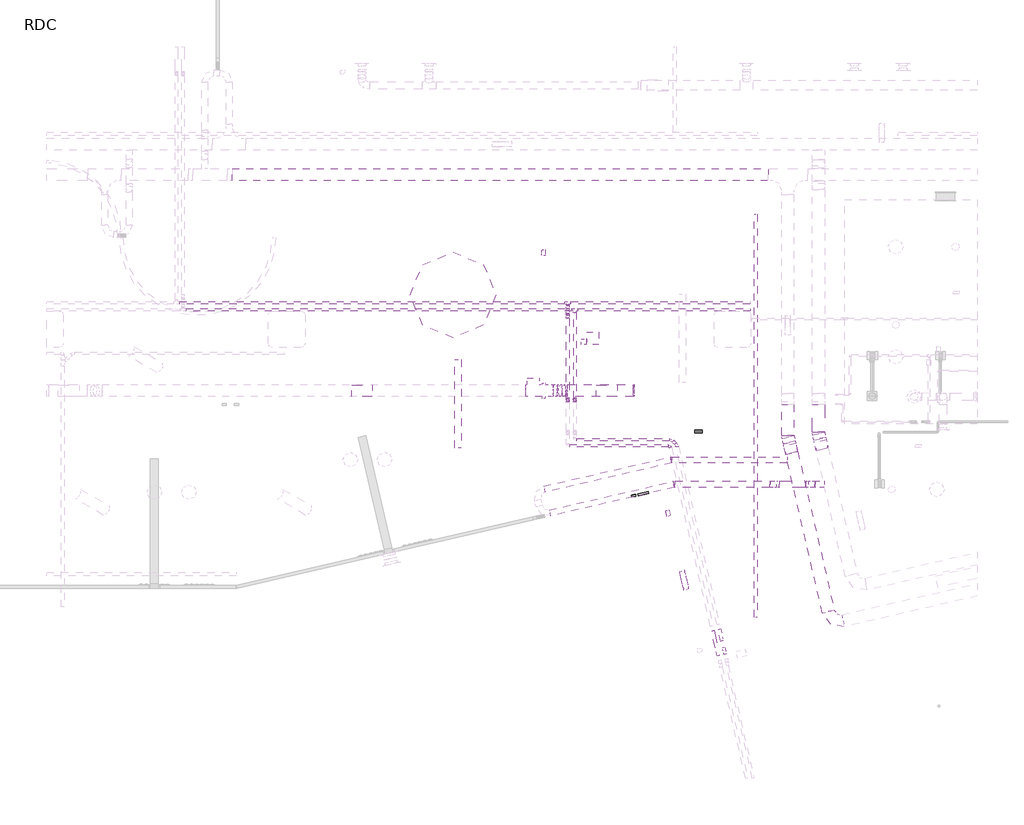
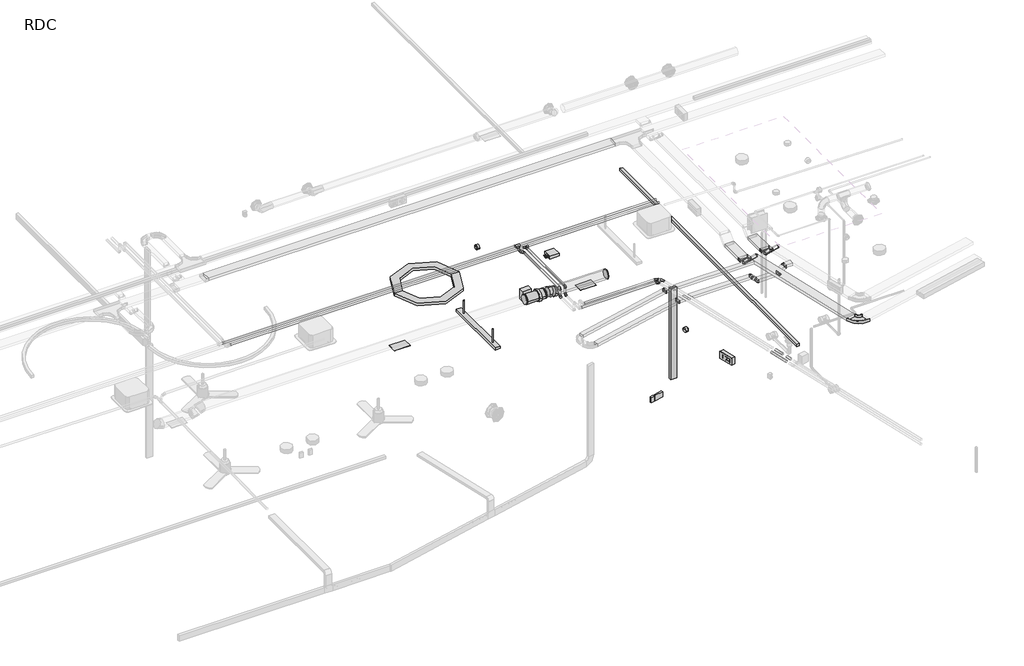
# One storey, part 6 of 15: 17 pipe segments, 16 cable carrier segments, 13 cable carrier fittings, 12 pipe fittings, 5 light fixtures, 4 duct segments, 3 duct fittings, 3 proxies, 5 other elements.
"""IFC4 building model written with IfcOpenShell, lengths in millimetres."""

from ifc_helpers import new_model, si_unit, point, frame, frame_2d, origin, place, context, project, spatial, polyline, circle_curve, trimmed, segment, composite_curve, outline, extrude, transform, mapped, element, save
from components import air_terminal_300x150_ce1732d7, alarm_ff25f4bb, mechanical_equipment_c8f78f9b, mechanical_equipment_4a9d14a3, electrical_fixtures_b5335298, standaard_2330e57b, standaard_15b901d2, standaard_4c7fa205, standaard_e0b66c9b, standaard_41c507b0, standaard_8c2b1447, standaard_3ccb1d7a, standaard_35becd63, ai_acc_gaine_ccf_circulaire_d200_bacb5152, coude_circulaire_1_d_686486ae, standard_0dd78975, light_fixture_1fd30b04, light_fixture_0e94ac83, a9_4b38396c, ai_luminaire_concept_s_angle_915ad789, plafond_a018df44, standard_b03442fd, standard_a87af493, standard_ff5d54bc, standard_8dba9d94, standard_43b117e1

model = new_model("IFC4")

# Units and contexts
model_context = context("Model", 3, world=origin())
ifc_project = project(units=[si_unit("LENGTHUNIT", "METRE", prefix="MILLI")], contexts=[model_context])

# Site, building, storey
site = spatial("IfcSite", under=ifc_project)
building = spatial("IfcBuilding", under=site)
storey = spatial("IfcBuildingStorey", under=building, Name="RDC", Elevation=0.0)

# Air terminals
placement = place(None, origin())
air_terminal_300x150_shape = air_terminal_300x150_ce1732d7(model_context)
element("IfcAirTerminal", 1, ObjectType="AI_Bouche aération_Grille de soufflage rectangulaire sur gaine : 300x150", at=placement, inside=storey, context=model_context, shape_type="MappedRepresentation", body=[
    mapped(air_terminal_300x150_shape, transform((28288.6648303, 4361.9215834, 2670.0), x_axis=(0.0, -1.0, 0.0), y_axis=(1.0, 0.0, 0.0), z_axis=(0.0, 0.0, 1.0))),
])
element("IfcAirTerminal", 2, ObjectType="AI_Bouche aération_Grille de soufflage rectangulaire sur gaine : 300x150", at=placement, inside=storey, context=model_context, shape_type="MappedRepresentation", body=[
    mapped(air_terminal_300x150_shape, transform((24277.9945729, 4361.9215834, 2700.0), x_axis=(0.0, 1.0, 0.0), y_axis=(-1.0, 0.0, 0.0), z_axis=(0.0, 0.0, 1.0))),
])

# Alarms
alarm_shape = alarm_ff25f4bb(model_context)
element("IfcAlarm", 3, ObjectType="AI_Incendie_Alarme incendie : Diffuseur sonore", at=placement, inside=storey, context=model_context, shape_type="MappedRepresentation", body=[
    mapped(alarm_shape, transform((27282.9442754, 6622.8964541, 2529.5993522), x_axis=(0.0, 1.0, 0.0), y_axis=(-1.0, 0.0, 0.0), z_axis=(0.0, 0.0, 1.0))),
])
element("IfcAlarm", 4, ObjectType="AI_Incendie_Alarme incendie : Diffuseur sonore", at=placement, inside=storey, context=model_context, shape_type="MappedRepresentation", body=[
    mapped(alarm_shape, transform((29260.8019562, 2346.2148376, 2529.5993522), x_axis=(0.2249510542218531, -0.974370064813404, 0.0), y_axis=(0.974370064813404, 0.2249510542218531, 0.0), z_axis=(0.0, 0.0, 1.0))),
])

# Proxies
mechanical_equipment_shape = mechanical_equipment_c8f78f9b(model_context)
element("IfcBuildingElementProxy", 5, Name="AI_Eqpmt genie clim_Commande centralisée Clim : Commande centralisée Clim", ObjectType="AI_Eqpmt genie clim_Commande centralisée Clim : Commande centralisée Clim", at=placement, inside=storey, context=model_context, shape_type="MappedRepresentation", body=[
    mapped(mechanical_equipment_shape, transform((28886.3228768, 2675.4126731, 900.0), x_axis=(-0.9743700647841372, -0.2249510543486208, 0.0), y_axis=(0.2249510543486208, -0.9743700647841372, 0.0), z_axis=(0.0, 0.0, 1.0))),
])
mechanical_equipment_2_shape = mechanical_equipment_4a9d14a3(model_context)
element("IfcBuildingElementProxy", 6, Name="AI_Eqpmt genie clim_Commande murale Clim : Commande murale Clim", ObjectType="AI_Eqpmt genie clim_Commande murale Clim : Commande murale Clim", at=placement, inside=storey, context=model_context, shape_type="MappedRepresentation", body=[
    mapped(mechanical_equipment_2_shape, transform((28730.9948082, 2624.1578013, 960.0), x_axis=(0.9743700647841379, 0.22495105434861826, 0.0), y_axis=(-0.22495105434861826, 0.9743700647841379, 0.0), z_axis=(0.0, 0.0, 1.0))),
])
electrical_fixtures_shape = electrical_fixtures_b5335298(model_context)
element("IfcBuildingElementProxy", 7, Name="AI_Instal elec_Prise RJ45 : RJ45 Plafonnière", ObjectType="AI_Instal elec_Prise RJ45 : RJ45 Plafonnière", at=placement, inside=storey, context=model_context, shape_type="MappedRepresentation", body=[
    mapped(electrical_fixtures_shape, transform((27914.342576, 5119.3027163, 2980.0), x_axis=(-1.0, 0.0, 0.0), y_axis=(0.0, -1.0, 0.0), z_axis=(0.0, 0.0, 1.0))),
])

# Cable carrier fittings
standaard_shape = standaard_2330e57b(model_context)
element("IfcCableCarrierFitting", 8, ObjectType="AI_Raccord cdc_Coude desencdant : standaard", at=placement, inside=storey, context=model_context, shape_type="MappedRepresentation", body=[
    mapped(standaard_shape, transform((30971.6641623, 2828.0036391, 2856.9968882), x_axis=(1.0, 0.0, 0.0), y_axis=(0.0, 0.0, -1.0), z_axis=(0.0, 1.0, 0.0))),
])
element("IfcCableCarrierFitting", 9, ObjectType="AI_Raccord cdc_Coude desencdant : standaard", at=placement, inside=storey, context=model_context, shape_type="MappedRepresentation", body=[
    mapped(standaard_shape, transform((31686.2226035, 2828.0036391, 2856.9968882), x_axis=(0.7071067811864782, 0.0, 0.7071067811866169), y_axis=(0.7071067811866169, 0.0, -0.7071067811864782), z_axis=(0.0, 1.0, 0.0))),
])
standaard_2_shape = standaard_15b901d2(model_context)
element("IfcCableCarrierFitting", 10, ObjectType="AI_Raccord cdc_Coude montant : standaard", at=placement, inside=storey, context=model_context, shape_type="MappedRepresentation", body=[
    mapped(standaard_2_shape, transform((31098.9433829, 2828.0036391, 2729.7176676), x_axis=(0.70710678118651, 0.0, -0.707106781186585), y_axis=(0.707106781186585, 0.0, 0.70710678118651), z_axis=(0.0, -1.0, 0.0))),
])
element("IfcCableCarrierFitting", 11, ObjectType="AI_Raccord cdc_Coude montant : standaard", at=placement, inside=storey, context=model_context, shape_type="MappedRepresentation", body=[
    mapped(standaard_2_shape, transform((31558.9433829, 2828.0036391, 2729.7176676), x_axis=(1.0, 0.0, 0.0), y_axis=(0.0, 0.0, 1.0), z_axis=(0.0, -1.0, 0.0))),
])
standaard_3_shape = standaard_4c7fa205(model_context)
element("IfcCableCarrierFitting", 12, ObjectType="AI_Raccord cdc_Coude horizontal rayon court : standaard", at=placement, inside=storey, context=model_context, shape_type="MappedRepresentation", body=[
    mapped(standaard_3_shape, transform((29391.6641623, 2828.0036391, 2856.9968882), x_axis=(-1.0, 0.0, 0.0), y_axis=(0.0, -1.0, 0.0), z_axis=(0.0, 0.0, 1.0))),
])
standaard_4_shape = standaard_e0b66c9b(model_context)
element("IfcCableCarrierFitting", 13, ObjectType="AI_Raccord cdc_Coude horizontal rayon court : standaard", at=placement, inside=storey, context=model_context, shape_type="MappedRepresentation", body=[
    mapped(standaard_4_shape, transform((29346.1168345, 3228.0035961, 2856.9968882), x_axis=(-1.0, 0.0, 0.0), y_axis=(0.0, -1.0, 0.0), z_axis=(0.0, 0.0, 1.0))),
])
standaard_5_shape = standaard_41c507b0(model_context)
element("IfcCableCarrierFitting", 14, ObjectType="AI_Raccord cdc_Coude horizontal rayon court : standaard", at=placement, inside=storey, context=model_context, shape_type="MappedRepresentation", body=[
    mapped(standaard_5_shape, transform((31253.8980101, 3614.307977, 2703.711413), x_axis=(0.0, -1.0, 0.0), y_axis=(1.0, 0.0, 0.0), z_axis=(0.0, 0.0, 1.0))),
])
element("IfcCableCarrierFitting", 15, ObjectType="AI_Raccord cdc_Coude horizontal rayon court : standaard", at=placement, inside=storey, context=model_context, shape_type="MappedRepresentation", body=[
    mapped(standaard_5_shape, transform((31753.8980101, 3671.2745968, 2703.711413), x_axis=(0.0, -1.0, 0.0), y_axis=(1.0, 0.0, 0.0), z_axis=(0.0, 0.0, 1.0))),
])
standaard_6_shape = standaard_8c2b1447(model_context)
element("IfcCableCarrierFitting", 16, ObjectType="AI_Raccord cdc_Coude horizontal rayon court : standaard", at=placement, inside=storey, context=model_context, shape_type="MappedRepresentation", body=[
    mapped(standaard_6_shape, transform((31962.2186509, 546.1687455, 2856.9968882), x_axis=(0.22494649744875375, -0.9743711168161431, 0.0), y_axis=(0.9743711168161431, 0.22494649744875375, 0.0), z_axis=(0.0, 0.0, 1.0))),
])
standaard_7_shape = standaard_3ccb1d7a(model_context)
element("IfcCableCarrierFitting", 17, ObjectType="AI_Raccord cdc_Coude desencdant : standaard", at=placement, inside=storey, context=model_context, shape_type="MappedRepresentation", body=[
    mapped(standaard_7_shape, transform((31813.6402597, 3412.4969625, 2856.9968882), x_axis=(0.15906119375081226, -0.6889844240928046, 0.7071067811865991), y_axis=(0.15906119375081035, -0.6889844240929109, -0.707106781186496), z_axis=(0.9743711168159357, 0.22494649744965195, 0.0))),
])
element("IfcCableCarrierFitting", 18, ObjectType="AI_Raccord cdc_Coude desencdant : standaard", at=placement, inside=storey, context=model_context, shape_type="MappedRepresentation", body=[
    mapped(standaard_7_shape, transform((31314.4610608, 3351.9749867, 2856.9968882), x_axis=(0.15906119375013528, -0.6889844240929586, 0.7071067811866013), y_axis=(0.15906119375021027, -0.6889844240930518, -0.7071067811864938), z_axis=(0.9743711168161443, 0.22494649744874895, 0.0))),
])
standaard_8_shape = standaard_35becd63(model_context)
element("IfcCableCarrierFitting", 19, ObjectType="AI_Raccord cdc_Coude montant : standaard", at=placement, inside=storey, context=model_context, shape_type="MappedRepresentation", body=[
    mapped(standaard_8_shape, transform((31779.1592289, 3561.8539021, 2703.711413), x_axis=(0.22494649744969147, -0.9743711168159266, 0.0), y_axis=(0.0, 0.0, 1.0000000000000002), z_axis=(-0.9743711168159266, -0.22494649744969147, 0.0))),
])
element("IfcCableCarrierFitting", 20, ObjectType="AI_Raccord cdc_Coude montant : standaard", at=placement, inside=storey, context=model_context, shape_type="MappedRepresentation", body=[
    mapped(standaard_8_shape, transform((31279.98003, 3501.3319263, 2703.711413), x_axis=(0.2249464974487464, -0.9743711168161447, 0.0), y_axis=(0.0, 0.0, 1.0), z_axis=(-0.9743711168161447, -0.2249464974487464, 0.0))),
])

# Cable carrier segments
element("IfcCableCarrierSegment", 21, ObjectType="Par défaut", at=placement, inside=storey, context=model_context, shape_type="SweptSolid", body=[
    extrude(outline(polyline([(31353.8980101, 3628.9799656), (31153.8980101, 3628.9799659), (31153.8980108, 4136.4575693), (31353.8980108, 4136.457569), (31353.8980101, 3628.9799656)])), frame((0.0, 0.0, 2673.711413), z_axis=(0.0, 0.0, 1.0), x_axis=(1.0, 0.0, 0.0)), (0.0, 0.0, 1.0), 60.0),
])
element("IfcCableCarrierSegment", 22, ObjectType="Par défaut", at=placement, inside=storey, context=model_context, shape_type="SweptSolid", body=[
    extrude(outline(polyline([(22148.8980101, 7802.2308907), (22148.8980101, 8002.2308907), (30928.8980101, 8002.2308907), (30928.8980101, 7802.2308907), (22148.8980101, 7802.2308907)])), frame((0.0, 0.0, 2826.9968882), z_axis=(0.0, 0.0, 1.0), x_axis=(1.0, 0.0, 0.0)), (0.0, 0.0, 1.0), 60.0),
])
element("IfcCableCarrierSegment", 23, ObjectType="Par défaut", at=placement, inside=storey, context=model_context, shape_type="SweptSolid", body=[
    extrude(outline(polyline([(32014.4415166, 764.5119897), (31819.5672932, 719.5226902), (31220.1373482, 3315.9944361), (31415.0115716, 3360.9837356), (32014.4415166, 764.5119897)])), frame((0.0, 0.0, 2826.9968882), z_axis=(0.0, 0.0, 1.0), x_axis=(1.0, 0.0, 0.0)), (0.0, 0.0, 1.0), 60.0),
])
element("IfcCableCarrierSegment", 24, ObjectType="Par défaut", at=placement, inside=storey, context=model_context, shape_type="SweptSolid", body=[
    extrude(outline(polyline([(31159.7613109, 3577.5173652), (31354.6355343, 3622.5066647), (31374.3037426, 3537.3124769), (31179.4295193, 3492.3231774), (31159.7613109, 3577.5173652)])), frame((0.0, 0.0, 2673.711413), z_axis=(0.0, 0.0, 1.0), x_axis=(1.0, 0.0, 0.0)), (0.0, 0.0, 1.0), 60.0),
])
element("IfcCableCarrierSegment", 25, ObjectType="Par défaut", at=placement, inside=storey, context=model_context, shape_type="SweptSolid", body=[
    extrude(outline(polyline([(31853.8980101, 3685.9465855), (31653.8980101, 3685.9465855), (31653.8980101, 4136.4577523), (31853.8980101, 4136.4577523), (31853.8980101, 3685.9465855)])), frame((0.0, 0.0, 2673.711413), z_axis=(0.0, 0.0, 1.0), x_axis=(1.0, 0.0, 0.0)), (0.0, 0.0, 1.0), 60.0),
])
element("IfcCableCarrierSegment", 26, ObjectType="Par défaut", at=placement, inside=storey, context=model_context, shape_type="SweptSolid", body=[
    extrude(outline(polyline([(31659.7613109, 3634.483985), (31854.6355343, 3679.4732845), (31873.4829415, 3597.8344526), (31678.6087182, 3552.8451532), (31659.7613109, 3634.483985)])), frame((0.0, 0.0, 2673.711413), z_axis=(0.0, 0.0, 1.0), x_axis=(1.0, 0.0, 0.0)), (0.0, 0.0, 1.0), 60.0),
])
element("IfcCableCarrierSegment", 27, ObjectType="Par défaut", at=placement, inside=storey, context=model_context, shape_type="SweptSolid", body=[
    extrude(outline(polyline([(0.0, -199.9999999), (0.0, 0.0), (189.097157, 1e-07), (189.097157, -200.0), (0.0, -199.9999999)])), frame((31883.569682, 3554.1430472, 2692.2850062), z_axis=(-0.15906119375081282, 0.6889844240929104, 0.707106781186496), x_axis=(0.15906119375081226, -0.6889844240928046, 0.7071067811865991)), (0.0, 0.0, 1.0), 60.0),
])
element("IfcCableCarrierSegment", 28, ObjectType="Par défaut", at=placement, inside=storey, context=model_context, shape_type="SweptSolid", body=[
    extrude(outline(polyline([(-1e-07, -199.9999999), (0.0, 0.0), (189.097157, 1e-07), (189.097157, -200.0), (-1e-07, -199.9999999)])), frame((31384.3904831, 3493.6210714, 2692.2850062), z_axis=(-0.15906119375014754, 0.6889844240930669, 0.7071067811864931), x_axis=(0.15906119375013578, -0.6889844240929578, 0.7071067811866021)), (0.0, 0.0, 1.0), 60.0),
])
element("IfcCableCarrierSegment", 29, ObjectType="Par défaut", at=placement, inside=storey, context=model_context, shape_type="SweptSolid", body=[
    extrude(outline(polyline([(29355.0923395, 3178.0035961), (29355.0923395, 3278.0035961), (31241.1168345, 3278.0035961), (31241.1168345, 3178.0035961), (29355.0923395, 3178.0035961)])), frame((0.0, 0.0, 2826.9968882), z_axis=(0.0, 0.0, 1.0), x_axis=(1.0, 0.0, 0.0)), (0.0, 0.0, 1.0), 60.0),
])
element("IfcCableCarrierSegment", 30, ObjectType="Par défaut", at=placement, inside=storey, context=model_context, shape_type="SweptSolid", body=[
    extrude(outline(polyline([(29400.6397711, 2778.0036391), (29400.6397711, 2878.0036391), (30957.8235419, 2878.0036391), (30957.8235419, 2778.0036391), (29400.6397711, 2778.0036391)])), frame((0.0, 0.0, 2826.9968882), z_axis=(0.0, 0.0, 1.0), x_axis=(1.0, 0.0, 0.0)), (0.0, 0.0, 1.0), 60.0),
])
element("IfcCableCarrierSegment", 31, ObjectType="Par défaut", at=placement, inside=storey, context=model_context, shape_type="SweptSolid", body=[
    extrude(outline(polyline([(27370.3546204, 2310.025335), (27347.8591954, 2407.4622677), (29371.6708918, 2874.7030041), (29394.1663168, 2777.2660713), (27370.3546204, 2310.025335)])), frame((0.0, 0.0, 2826.9968882), z_axis=(0.0, 0.0, 1.0), x_axis=(1.0, 0.0, 0.0)), (0.0, 0.0, 1.0), 60.0),
])
element("IfcCableCarrierSegment", 32, ObjectType="Par défaut", at=placement, inside=storey, context=model_context, shape_type="SweptSolid", body=[
    extrude(outline(polyline([(27280.3722332, 2699.7729072), (27257.8770937, 2797.2099058), (29326.1238022, 3274.7030431), (29348.6189416, 3177.2660444), (27280.3722332, 2699.7729072)])), frame((0.0, 0.0, 2826.9968882), z_axis=(0.0, 0.0, 1.0), x_axis=(1.0, 0.0, 0.0)), (0.0, 0.0, 1.0), 60.0),
])
element("IfcCableCarrierSegment", 33, ObjectType="Par défaut", at=placement, inside=storey, context=model_context, shape_type="SweptSolid", body=[
    extrude(outline(polyline([(0.0, -100.0), (0.0, 0.0), (152.3187591, 0.0), (152.3187591, -100.0), (0.0, -100.0)])), frame((30960.2377554, 2878.0036391, 2825.9968882), z_axis=(0.707106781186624, 0.0, 0.7071067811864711), x_axis=(0.7071067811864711, 0.0, -0.707106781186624)), (0.0, 0.0, 1.0), 60.0),
])
element("IfcCableCarrierSegment", 34, ObjectType="Par défaut", at=placement, inside=storey, context=model_context, shape_type="SweptSolid", body=[
    extrude(outline(polyline([(31112.7840033, 2778.0036391), (31112.7840033, 2878.0036391), (31545.1027625, 2878.0036391), (31545.1027625, 2778.0036391), (31112.7840033, 2778.0036391)])), frame((0.0, 0.0, 2699.7176676), z_axis=(0.0, 0.0, 1.0), x_axis=(1.0, 0.0, 0.0)), (0.0, 0.0, 1.0), 60.0),
])
element("IfcCableCarrierSegment", 35, ObjectType="Par défaut", at=placement, inside=storey, context=model_context, shape_type="SweptSolid", body=[
    extrude(outline(polyline([(29.9999999, 8.309519), (-30.0, 8.309519), (-30.0, 108.309519), (29.9999999, 108.309519), (29.9999999, 8.309519)])), frame((31568.7301795, 2769.6941201, 2739.5044642), z_axis=(0.7071067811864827, 0.0, 0.7071067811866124), x_axis=(0.7071067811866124, 0.0, -0.7071067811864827)), (0.0, 0.0, 1.0), 152.3187591),
])
element("IfcCableCarrierSegment", 36, ObjectType="Par défaut", at=placement, inside=storey, context=model_context, shape_type="SweptSolid", body=[
    extrude(outline(polyline([(31700.0632239, 2778.0036391), (31700.0632239, 2878.0036391), (31846.2226035, 2878.0036391), (31846.2226035, 2778.0036391), (31700.0632239, 2778.0036391)])), frame((0.0, 0.0, 2826.9968882), z_axis=(0.0, 0.0, 1.0), x_axis=(1.0, 0.0, 0.0)), (0.0, 0.0, 1.0), 60.0),
])

# Damper
ai_acc_gaine_ccf_circulaire_d200_shape = ai_acc_gaine_ccf_circulaire_d200_bacb5152(model_context)
element("IfcDamper", 37, ObjectType="AI_Acc gaine_CCF Circulaire : D200", at=placement, inside=storey, context=model_context, shape_type="MappedRepresentation", body=[
    mapped(ai_acc_gaine_ccf_circulaire_d200_shape, transform((27082.9443588, 4361.9215834, 2800.0), x_axis=(-1.0, 0.0, 0.0), y_axis=(0.0, 1.0, 0.0), z_axis=(0.0, 0.0, -1.0))),
])

# Duct fittings
coude_circulaire_1_d_shape = coude_circulaire_1_d_686486ae(model_context)
element("IfcDuctFitting", 38, ObjectType="Coude circulaire : 1 D", at=placement, inside=storey, context=model_context, shape_type="MappedRepresentation", body=[
    mapped(coude_circulaire_1_d_shape, transform((27498.3584299, 4361.9215834, 2800.0), x_axis=(1.0, 0.0, 0.0), y_axis=(0.0, 0.0, -1.0), z_axis=(0.0, 1.0, 0.0))),
])
element("IfcDuctFitting", 39, ObjectType="Coude circulaire : 1 D", at=placement, inside=storey, context=model_context, shape_type="MappedRepresentation", body=[
    mapped(coude_circulaire_1_d_shape, transform((27610.3199541, 4361.9215834, 2770.0), x_axis=(-1.0, 0.0, 0.0), y_axis=(0.0, 0.0, 1.0), z_axis=(0.0, 1.0, 0.0))),
])
standard_shape = standard_0dd78975(model_context)
element("IfcDuctFitting", 40, ObjectType="Extrémité arrondie : Standard", at=placement, inside=storey, context=model_context, shape_type="MappedRepresentation", body=[
    mapped(standard_shape, transform((28722.9444462, 4361.9215834, 2770.0), x_axis=(1.0, 0.0, 0.0), y_axis=(0.0, 1.0, 0.0), z_axis=(0.0, 0.0, 1.0))),
])

# Duct segments
element("IfcDuctSegment", 41, ObjectType="Goulotte", at=placement, inside=storey, context=model_context, shape_type="SweptSolid", body=[
    extrude(outline(polyline([(29725.0846984, 3669.3027162), (29725.0846984, 3719.3027162), (29855.0846984, 3719.3027162), (29855.0846984, 3669.3027162), (29725.0846984, 3669.3027162)])), frame((0.0, 0.0, 430.0), z_axis=(0.0, 0.0, 1.0), x_axis=(1.0, 0.0, 0.0)), (0.0, 0.0, 1.0), 2070.0),
])
element("IfcDuctSegment", 42, ObjectType="Circulaire - Té", at=placement, inside=storey, context=model_context, shape_type="SweptSolid", body=[
    extrude(outline(composite_curve([segment(trimmed(circle_curve(frame_2d((4361.9215834, 2770.0)), 100.0), [point((4461.9215834, 2770.0))], [point((4361.9215834, 2670.0))], False, "CARTESIAN"), True, "CONTINUOUS"), segment(trimmed(circle_curve(frame_2d((4361.9215834, 2770.0)), 100.0), [point((4361.9215834, 2670.0))], [point((4261.9215834, 2770.0))], False, "CARTESIAN"), True, "CONTINUOUS"), segment(trimmed(circle_curve(frame_2d((4361.9215834, 2770.0)), 100.0), [point((4261.9215834, 2770.0))], [point((4361.9215834, 2870.0))], False, "CARTESIAN"), True, "CONTINUOUS"), segment(trimmed(circle_curve(frame_2d((4361.9215834, 2770.0)), 100.0), [point((4361.9215834, 2870.0))], [point((4461.9215834, 2770.0))], False, "CARTESIAN"), True, "CONTINUOUS")], self_intersect=False)), frame((27636.6504536, 0.0, 0.0), z_axis=(1.0, 0.0, 0.0), x_axis=(0.0, 1.0, 0.0)), (0.0, 0.0, 1.0), 1086.2939926),
])
element("IfcDuctSegment", 43, ObjectType="Circulaire - Té", at=placement, inside=storey, context=model_context, shape_type="SweptSolid", body=[
    extrude(outline(composite_curve([segment(trimmed(circle_curve(frame_2d((0.0, -100.0)), 100.0), [point((0.0, -200.0))], [point((-100.0, -100.0))], False, "CARTESIAN"), True, "CONTINUOUS"), segment(trimmed(circle_curve(frame_2d((0.0, -100.0)), 100.0), [point((-100.0, -100.0))], [point((0.0, 0.0))], False, "CARTESIAN"), True, "CONTINUOUS"), segment(trimmed(circle_curve(frame_2d((0.0, -100.0)), 100.0), [point((0.0, 0.0))], [point((100.0000001, -100.0))], False, "CARTESIAN"), True, "CONTINUOUS"), segment(trimmed(circle_curve(frame_2d((0.0, -100.0)), 100.0), [point((100.0000001, -100.0))], [point((0.0, -200.0))], False, "CARTESIAN"), True, "CONTINUOUS")], self_intersect=False)), frame((27584.8866446, 4461.9215834, 2776.8148347), z_axis=(-0.9659258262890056, 0.0, 0.25881904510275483), x_axis=(0.25881904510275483, 0.0, 0.9659258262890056)), (0.0, 0.0, 1.0), 63.2501001),
])
element("IfcDuctSegment", 44, ObjectType="Circulaire - Té", at=placement, inside=storey, context=model_context, shape_type="SweptSolid", body=[
    extrude(outline(composite_curve([segment(trimmed(circle_curve(frame_2d((4361.9215834, 2800.0)), 100.0), [point((4461.9215834, 2800.0))], [point((4361.9215834, 2700.0))], False, "CARTESIAN"), True, "CONTINUOUS"), segment(trimmed(circle_curve(frame_2d((4361.9215834, 2800.0)), 100.0), [point((4361.9215834, 2700.0))], [point((4261.9215834, 2800.0))], False, "CARTESIAN"), True, "CONTINUOUS"), segment(trimmed(circle_curve(frame_2d((4361.9215834, 2800.0)), 100.0), [point((4261.9215834, 2800.0))], [point((4361.9215834, 2900.0))], False, "CARTESIAN"), True, "CONTINUOUS"), segment(trimmed(circle_curve(frame_2d((4361.9215834, 2800.0)), 100.0), [point((4361.9215834, 2900.0))], [point((4461.9215834, 2800.0))], False, "CARTESIAN"), True, "CONTINUOUS")], self_intersect=False)), frame((27407.9443588, 0.0, 0.0), z_axis=(1.0, 0.0, 0.0), x_axis=(0.0, 1.0, 0.0)), (0.0, 0.0, 1.0), 64.0835716),
])

# Light fixtures
light_fixture_shape = light_fixture_1fd30b04(model_context)
element("IfcLightFixture", 45, ObjectType="AI_Luminaire_BAES : Sortie", at=placement, inside=storey, context=model_context, shape_type="MappedRepresentation", body=[
    mapped(light_fixture_shape, transform((29553.5902478, 1255.8258911, 2420.4480749), x_axis=(0.2249510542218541, -0.9743700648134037, 0.0), y_axis=(0.9743700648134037, 0.2249510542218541, 0.0), z_axis=(0.0, 0.0, 1.0))),
])
light_fixture_2_shape = light_fixture_0e94ac83(model_context)
element("IfcLightFixture", 46, ObjectType="AI_Luminaire_CONCEPT S_Linéaire : CONCEPTION S", at=placement, inside=storey, context=model_context, shape_type="MappedRepresentation", body=[
    mapped(light_fixture_2_shape, transform((30726.6084544, 3950.852022, 2733.711413), x_axis=(-2.765771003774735e-08, 0.9999999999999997, 0.0), y_axis=(-0.9999999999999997, -2.765771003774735e-08, 0.0), z_axis=(0.0, 0.0, 1.0))),
])
a9_shape = a9_4b38396c(model_context)
element("IfcLightFixture", 47, ObjectType="AI_Luminaire_Linéaire avec suspente : A9", at=placement, inside=storey, context=model_context, shape_type="MappedRepresentation", body=[
    mapped(a9_shape, transform((25851.019074, 4146.2190214, 2680.0), x_axis=(0.0, -1.0, 0.0), y_axis=(1.0, 0.0, 0.0), z_axis=(0.0, 0.0, 1.0))),
])
ai_luminaire_concept_s_angle_shape = ai_luminaire_concept_s_angle_915ad789(model_context)
element("IfcLightFixture", 48, ObjectType="AI_Luminaire_CONCEPT S_Angle : CONCEPTION O", at=placement, inside=storey, context=model_context, shape_type="MappedRepresentation", body=[
    mapped(ai_luminaire_concept_s_angle_shape, transform((25094.9639572, 5930.0660025, 2660.0), x_axis=(0.9999999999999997, 2.7657710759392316e-08, 0.0), y_axis=(-2.7657710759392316e-08, 0.9999999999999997, 0.0), z_axis=(0.0, 0.0, 1.0))),
])
plafond_shape = plafond_a018df44(model_context)
element("IfcLightFixture", 49, ObjectType="AI_Luminaire_Borne WIFI : Plafond", at=placement, inside=storey, context=model_context, shape_type="MappedRepresentation", body=[
    mapped(plafond_shape, transform((27956.842576, 5119.3027163, 2920.0), x_axis=(1.0, 0.0, 0.0), y_axis=(0.0, 1.0, 0.0), z_axis=(0.0, 0.0, 1.0))),
])

# Pipe fittings
standard_2_shape = standard_b03442fd(model_context)
element("IfcPipeFitting", 50, ObjectType="Coude - Générique1 : Standard", at=placement, inside=storey, context=model_context, shape_type="MappedRepresentation", body=[
    mapped(standard_2_shape, transform((29434.7023422, 3472.1320041, 2918.2995), x_axis=(-0.22496403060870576, 0.9743670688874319, 0.0), y_axis=(-0.9743670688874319, -0.22496403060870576, 0.0), z_axis=(0.0, 0.0, 1.0))),
])
standard_3_shape = standard_a87af493(model_context)
element("IfcPipeFitting", 51, ObjectType="Coude - Générique1 : Standard", at=placement, inside=storey, context=model_context, shape_type="MappedRepresentation", body=[
    mapped(standard_3_shape, transform((27648.460576, 5643.5008539, 2856.7), x_axis=(0.0, 0.7071067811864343, -0.7071067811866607), y_axis=(0.0, 0.7071067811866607, 0.7071067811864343), z_axis=(1.0, 0.0, 0.0))),
])
element("IfcPipeFitting", 52, ObjectType="Coude - Générique1 : Standard", at=placement, inside=storey, context=model_context, shape_type="MappedRepresentation", body=[
    mapped(standard_3_shape, transform((27648.460576, 5738.4380801, 2856.7), x_axis=(0.0, 1.0, 0.0), y_axis=(0.0, 0.0, 1.0), z_axis=(1.0, 0.0, 0.0))),
])
element("IfcPipeFitting", 53, ObjectType="Coude - Générique1 : Standard", at=placement, inside=storey, context=model_context, shape_type="MappedRepresentation", body=[
    mapped(standard_3_shape, transform((27648.460576, 5581.9013539, 2918.2995), x_axis=(0.0, -0.7071067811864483, 0.7071067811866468), y_axis=(0.0, -0.7071067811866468, -0.7071067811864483), z_axis=(1.0, 0.0, 0.0))),
])
element("IfcPipeFitting", 54, ObjectType="Coude - Générique1 : Standard", at=placement, inside=storey, context=model_context, shape_type="MappedRepresentation", body=[
    mapped(standard_3_shape, transform((29350.8950746, 3555.9392717, 2918.2995), x_axis=(-0.7071067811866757, 0.7071067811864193, 0.0), y_axis=(-0.7071067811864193, -0.7071067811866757, 0.0), z_axis=(0.0, 0.0, 1.0))),
])
standard_4_shape = standard_ff5d54bc(model_context)
element("IfcPipeFitting", 55, ObjectType="Té - Générique : Standard", at=placement, inside=storey, context=model_context, shape_type="MappedRepresentation", body=[
    mapped(standard_4_shape, transform((27648.460576, 5799.9773867, 2918.2393066), x_axis=(-1.0, 0.0, 0.0), y_axis=(0.0, 0.7071067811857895, 0.7071067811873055), z_axis=(0.0, 0.7071067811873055, -0.7071067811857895))),
])
element("IfcPipeFitting", 56, ObjectType="Té - Générique : Standard", at=placement, inside=storey, context=model_context, shape_type="MappedRepresentation", body=[
    mapped(standard_4_shape, transform((27763.260576, 5687.9698468, 2918.2995), x_axis=(-1.0, 0.0, 0.0), y_axis=(0.0, 1.0, 0.0), z_axis=(0.0, 0.0, -1.0))),
])
standard_5_shape = standard_8dba9d94(model_context)
element("IfcPipeFitting", 57, ObjectType="Coude - Générique1 : Standard", at=placement, inside=storey, context=model_context, shape_type="MappedRepresentation", body=[
    mapped(standard_5_shape, transform((27648.460576, 4208.8368573, 2730.0), x_axis=(0.0, 1.0, 0.0), y_axis=(0.0, 0.0, 1.0), z_axis=(1.0, 0.0, 0.0))),
])
element("IfcPipeFitting", 58, ObjectType="Coude - Générique1 : Standard", at=placement, inside=storey, context=model_context, shape_type="MappedRepresentation", body=[
    mapped(standard_5_shape, transform((27763.260576, 4208.8368573, 2730.0), x_axis=(0.0, 1.0, 0.0), y_axis=(0.0, 0.0, 1.0), z_axis=(1.0, 0.0, 0.0))),
])
element("IfcPipeFitting", 59, ObjectType="Coude - Générique1 : Standard", at=placement, inside=storey, context=model_context, shape_type="MappedRepresentation", body=[
    mapped(standard_5_shape, transform((27763.260576, 4208.8368573, 2918.2995), x_axis=(0.0, 0.0, 1.0), y_axis=(0.0, 1.0, 0.0), z_axis=(-1.0, 0.0, 0.0))),
])
element("IfcPipeFitting", 60, ObjectType="Coude - Générique1 : Standard", at=placement, inside=storey, context=model_context, shape_type="MappedRepresentation", body=[
    mapped(standard_5_shape, transform((27648.460576, 4208.8368573, 2918.2995), x_axis=(0.0, 0.0, 1.0), y_axis=(0.0, 1.0, 0.0), z_axis=(-1.0, 0.0, 0.0))),
])
standard_6_shape = standard_43b117e1(model_context)
element("IfcPipeFitting", 61, ObjectType="Coude - Générique1 : Standard", at=placement, inside=storey, context=model_context, shape_type="MappedRepresentation", body=[
    mapped(standard_6_shape, transform((29324.2824585, 3459.4864212, 2918.2995), x_axis=(-0.22496433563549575, 0.9743669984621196, 0.0), y_axis=(-0.9743669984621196, -0.22496433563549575, 0.0), z_axis=(0.0, 0.0, 1.0))),
])

# Pipe segments
element("IfcPipeSegment", 62, ObjectType="Acier - Té", at=placement, inside=storey, context=model_context, shape_type="SweptSolid", body=[
    extrude(outline(composite_curve([segment(trimmed(circle_curve(frame_2d((0.0, -21.082)), 21.082), [point((21.082, -21.082))], [point((0.0, -42.164))], False, "CARTESIAN"), True, "CONTINUOUS"), segment(trimmed(circle_curve(frame_2d((0.0, -21.082)), 21.082), [point((0.0, -42.164))], [point((-21.082, -21.082))], False, "CARTESIAN"), True, "CONTINUOUS"), segment(trimmed(circle_curve(frame_2d((0.0, -21.082)), 21.082), [point((-21.082, -21.082))], [point((0.0, 0.0))], False, "CARTESIAN"), True, "CONTINUOUS"), segment(trimmed(circle_curve(frame_2d((0.0, -21.082)), 21.082), [point((0.0, 0.0))], [point((21.082, -21.082))], False, "CARTESIAN"), True, "CONTINUOUS")], self_intersect=False)), frame((27648.460576, 5635.780662, 2894.2346422), z_axis=(0.0, -0.7071067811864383, 0.7071067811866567), x_axis=(1.0, 0.0, 0.0)), (0.0, 0.0, 1.0), 23.1148483),
])
element("IfcPipeSegment", 63, ObjectType="Acier - Té", at=placement, inside=storey, context=model_context, shape_type="SweptSolid", body=[
    extrude(outline(composite_curve([segment(trimmed(circle_curve(frame_2d((2856.7, 27648.460576)), 21.082), [point((2856.7, 27669.542576))], [point((2877.782, 27648.460576))], False, "CARTESIAN"), True, "CONTINUOUS"), segment(trimmed(circle_curve(frame_2d((2856.7, 27648.460576)), 21.082), [point((2877.782, 27648.460576))], [point((2856.7, 27627.378576))], False, "CARTESIAN"), True, "CONTINUOUS"), segment(trimmed(circle_curve(frame_2d((2856.7, 27648.460576)), 21.082), [point((2856.7, 27627.378576))], [point((2835.618, 27648.460576))], False, "CARTESIAN"), True, "CONTINUOUS"), segment(trimmed(circle_curve(frame_2d((2856.7, 27648.460576)), 21.082), [point((2835.618, 27648.460576))], [point((2856.7, 27669.542576))], False, "CARTESIAN"), True, "CONTINUOUS")], self_intersect=False)), frame((0.0, 5675.5008539, 0.0), z_axis=(0.0, 1.0, 0.0), x_axis=(0.0, 0.0, 1.0)), (0.0, 0.0, 1.0), 30.9372262),
])
element("IfcPipeSegment", 64, ObjectType="Acier - Té", at=placement, inside=storey, context=model_context, shape_type="SweptSolid", body=[
    extrude(outline(composite_curve([segment(trimmed(circle_curve(frame_2d((0.0, 21.0820001)), 21.082), [point((21.082, 21.0820001))], [point((0.0, 0.0))], False, "CARTESIAN"), True, "CONTINUOUS"), segment(trimmed(circle_curve(frame_2d((0.0, 21.0820001)), 21.082), [point((0.0, 0.0))], [point((-21.082, 21.0820001))], False, "CARTESIAN"), True, "CONTINUOUS"), segment(trimmed(circle_curve(frame_2d((0.0, 21.0820001)), 21.082), [point((-21.082, 21.0820001))], [point((0.0, 42.164))], False, "CARTESIAN"), True, "CONTINUOUS"), segment(trimmed(circle_curve(frame_2d((0.0, 21.0820001)), 21.082), [point((0.0, 42.164))], [point((21.082, 21.0820001))], False, "CARTESIAN"), True, "CONTINUOUS")], self_intersect=False)), frame((27648.460576, 5746.1582719, 2894.2346422), z_axis=(0.0, 0.7071067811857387, 0.7071067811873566), x_axis=(1.0, 0.0, 0.0)), (0.0, 0.0, 1.0), 7.0297221),
])
element("IfcPipeSegment", 65, ObjectType="Acier - Té", at=placement, inside=storey, context=model_context, shape_type="SweptSolid", body=[
    extrude(outline(composite_curve([segment(trimmed(circle_curve(frame_2d((3555.9392717, 2918.2995)), 21.082), [point((3534.8572717, 2918.2995))], [point((3555.9392717, 2939.3815))], False, "CARTESIAN"), True, "CONTINUOUS"), segment(trimmed(circle_curve(frame_2d((3555.9392717, 2918.2995)), 21.082), [point((3555.9392717, 2939.3815))], [point((3577.0212717, 2918.2995))], False, "CARTESIAN"), True, "CONTINUOUS"), segment(trimmed(circle_curve(frame_2d((3555.9392717, 2918.2995)), 21.082), [point((3577.0212717, 2918.2995))], [point((3555.9392717, 2897.2175))], False, "CARTESIAN"), True, "CONTINUOUS"), segment(trimmed(circle_curve(frame_2d((3555.9392717, 2918.2995)), 21.082), [point((3555.9392717, 2897.2175))], [point((3534.8572717, 2918.2995))], False, "CARTESIAN"), True, "CONTINUOUS")], self_intersect=False)), frame((27795.260576, 0.0, 0.0), z_axis=(1.0, 0.0, 0.0), x_axis=(0.0, 1.0, 0.0)), (0.0, 0.0, 1.0), 1523.6344986),
])
element("IfcPipeSegment", 66, ObjectType="Acier - Té", at=placement, inside=storey, context=model_context, shape_type="SweptSolid", body=[
    extrude(outline(composite_curve([segment(trimmed(circle_curve(frame_2d((3459.4864212, 2918.2995)), 21.082), [point((3480.5684212, 2918.2995))], [point((3459.4864212, 2897.2175))], False, "CARTESIAN"), True, "CONTINUOUS"), segment(trimmed(circle_curve(frame_2d((3459.4864212, 2918.2995)), 21.082), [point((3459.4864212, 2897.2175))], [point((3438.4044212, 2918.2995))], False, "CARTESIAN"), True, "CONTINUOUS"), segment(trimmed(circle_curve(frame_2d((3459.4864212, 2918.2995)), 21.082), [point((3438.4044212, 2918.2995))], [point((3459.4864212, 2939.3815))], False, "CARTESIAN"), True, "CONTINUOUS"), segment(trimmed(circle_curve(frame_2d((3459.4864212, 2918.2995)), 21.082), [point((3459.4864212, 2939.3815))], [point((3480.5684212, 2918.2995))], False, "CARTESIAN"), True, "CONTINUOUS")], self_intersect=False)), frame((27680.460576, 0.0, 0.0), z_axis=(1.0, 0.0, 0.0), x_axis=(0.0, 1.0, 0.0)), (0.0, 0.0, 1.0), 1611.8218825),
])
element("IfcPipeSegment", 67, ObjectType="Acier - Té", at=placement, inside=storey, context=model_context, shape_type="SweptSolid", body=[
    extrude(outline(composite_curve([segment(trimmed(circle_curve(frame_2d((2918.2995, 27648.460576)), 21.082), [point((2918.2995, 27669.542576))], [point((2939.3815, 27648.460576))], False, "CARTESIAN"), True, "CONTINUOUS"), segment(trimmed(circle_curve(frame_2d((2918.2995, 27648.460576)), 21.082), [point((2939.3815, 27648.460576))], [point((2918.2995, 27627.378576))], False, "CARTESIAN"), True, "CONTINUOUS"), segment(trimmed(circle_curve(frame_2d((2918.2995, 27648.460576)), 21.082), [point((2918.2995, 27627.378576))], [point((2897.2175, 27648.460576))], False, "CARTESIAN"), True, "CONTINUOUS"), segment(trimmed(circle_curve(frame_2d((2918.2995, 27648.460576)), 21.082), [point((2897.2175, 27648.460576))], [point((2918.2995, 27669.542576))], False, "CARTESIAN"), True, "CONTINUOUS")], self_intersect=False)), frame((0.0, 4240.8368573, 0.0), z_axis=(0.0, 1.0, 0.0), x_axis=(0.0, 0.0, 1.0)), (0.0, 0.0, 1.0), 1309.0644966),
])
element("IfcPipeSegment", 68, ObjectType="Acier - Té", at=placement, inside=storey, context=model_context, shape_type="SweptSolid", body=[
    extrude(outline(composite_curve([segment(trimmed(circle_curve(frame_2d((2918.2995, 27763.260576)), 21.082), [point((2918.2995, 27784.342576))], [point((2939.3815, 27763.260576))], False, "CARTESIAN"), True, "CONTINUOUS"), segment(trimmed(circle_curve(frame_2d((2918.2995, 27763.260576)), 21.082), [point((2939.3815, 27763.260576))], [point((2918.2995, 27742.178576))], False, "CARTESIAN"), True, "CONTINUOUS"), segment(trimmed(circle_curve(frame_2d((2918.2995, 27763.260576)), 21.082), [point((2918.2995, 27742.178576))], [point((2897.2175, 27763.260576))], False, "CARTESIAN"), True, "CONTINUOUS"), segment(trimmed(circle_curve(frame_2d((2918.2995, 27763.260576)), 21.082), [point((2897.2175, 27763.260576))], [point((2918.2995, 27784.342576))], False, "CARTESIAN"), True, "CONTINUOUS")], self_intersect=False)), frame((0.0, 4240.8368573, 0.0), z_axis=(0.0, 1.0, 0.0), x_axis=(0.0, 0.0, 1.0)), (0.0, 0.0, 1.0), 1399.1329895),
])
element("IfcPipeSegment", 69, ObjectType="Acier - Té", at=placement, inside=storey, context=model_context, shape_type="SweptSolid", body=[
    extrude(outline(composite_curve([segment(trimmed(circle_curve(frame_2d((27648.460576, 4208.8368573)), 21.082), [point((27627.378576, 4208.8368573))], [point((27648.460576, 4229.9188573))], False, "CARTESIAN"), True, "CONTINUOUS"), segment(trimmed(circle_curve(frame_2d((27648.460576, 4208.8368573)), 21.082), [point((27648.460576, 4229.9188573))], [point((27669.542576, 4208.8368573))], False, "CARTESIAN"), True, "CONTINUOUS"), segment(trimmed(circle_curve(frame_2d((27648.460576, 4208.8368573)), 21.082), [point((27669.542576, 4208.8368573))], [point((27648.460576, 4187.7548573))], False, "CARTESIAN"), True, "CONTINUOUS"), segment(trimmed(circle_curve(frame_2d((27648.460576, 4208.8368573)), 21.082), [point((27648.460576, 4187.7548573))], [point((27627.378576, 4208.8368573))], False, "CARTESIAN"), True, "CONTINUOUS")], self_intersect=False)), frame((0.0, 0.0, 2762.0), z_axis=(0.0, 0.0, 1.0), x_axis=(1.0, 0.0, 0.0)), (0.0, 0.0, 1.0), 124.2995),
])
element("IfcPipeSegment", 70, ObjectType="Acier - Té", at=placement, inside=storey, context=model_context, shape_type="SweptSolid", body=[
    extrude(outline(composite_curve([segment(trimmed(circle_curve(frame_2d((27763.260576, 4208.8368573)), 21.082), [point((27742.178576, 4208.8368573))], [point((27763.260576, 4229.9188573))], False, "CARTESIAN"), True, "CONTINUOUS"), segment(trimmed(circle_curve(frame_2d((27763.260576, 4208.8368573)), 21.082), [point((27763.260576, 4229.9188573))], [point((27784.342576, 4208.8368573))], False, "CARTESIAN"), True, "CONTINUOUS"), segment(trimmed(circle_curve(frame_2d((27763.260576, 4208.8368573)), 21.082), [point((27784.342576, 4208.8368573))], [point((27763.260576, 4187.7548573))], False, "CARTESIAN"), True, "CONTINUOUS"), segment(trimmed(circle_curve(frame_2d((27763.260576, 4208.8368573)), 21.082), [point((27763.260576, 4187.7548573))], [point((27742.178576, 4208.8368573))], False, "CARTESIAN"), True, "CONTINUOUS")], self_intersect=False)), frame((0.0, 0.0, 2762.0), z_axis=(0.0, 0.0, 1.0), x_axis=(1.0, 0.0, 0.0)), (0.0, 0.0, 1.0), 124.2995),
])
element("IfcPipeSegment", 71, ObjectType="Acier - Té", at=placement, inside=storey, context=model_context, shape_type="SweptSolid", body=[
    extrude(outline(composite_curve([segment(trimmed(circle_curve(frame_2d((5687.9698468, 2918.2995)), 21.082), [point((5709.0518468, 2918.2995))], [point((5687.9698468, 2897.2175))], False, "CARTESIAN"), True, "CONTINUOUS"), segment(trimmed(circle_curve(frame_2d((5687.9698468, 2918.2995)), 21.082), [point((5687.9698468, 2897.2175))], [point((5666.8878468, 2918.2995))], False, "CARTESIAN"), True, "CONTINUOUS"), segment(trimmed(circle_curve(frame_2d((5687.9698468, 2918.2995)), 21.082), [point((5666.8878468, 2918.2995))], [point((5687.9698468, 2939.3815))], False, "CARTESIAN"), True, "CONTINUOUS"), segment(trimmed(circle_curve(frame_2d((5687.9698468, 2918.2995)), 21.082), [point((5687.9698468, 2939.3815))], [point((5709.0518468, 2918.2995))], False, "CARTESIAN"), True, "CONTINUOUS")], self_intersect=False)), frame((21396.6271336, 0.0, 0.0), z_axis=(1.0, 0.0, 0.0), x_axis=(0.0, 1.0, 0.0)), (0.0, 0.0, 1.0), 6318.6334425),
])
element("IfcPipeSegment", 72, ObjectType="Acier - Té", at=placement, inside=storey, context=model_context, shape_type="SweptSolid", body=[
    extrude(outline(composite_curve([segment(trimmed(circle_curve(frame_2d((5799.9773867, 2918.2393066)), 21.082), [point((5778.8953867, 2918.2393066))], [point((5799.9773867, 2939.3213066))], False, "CARTESIAN"), True, "CONTINUOUS"), segment(trimmed(circle_curve(frame_2d((5799.9773867, 2918.2393066)), 21.082), [point((5799.9773867, 2939.3213066))], [point((5821.0593867, 2918.2393066))], False, "CARTESIAN"), True, "CONTINUOUS"), segment(trimmed(circle_curve(frame_2d((5799.9773867, 2918.2393066)), 21.082), [point((5821.0593867, 2918.2393066))], [point((5799.9773867, 2897.1573066))], False, "CARTESIAN"), True, "CONTINUOUS"), segment(trimmed(circle_curve(frame_2d((5799.9773867, 2918.2393066)), 21.082), [point((5799.9773867, 2897.1573066))], [point((5778.8953867, 2918.2393066))], False, "CARTESIAN"), True, "CONTINUOUS")], self_intersect=False)), frame((27696.460576, 0.0, 0.0), z_axis=(1.0, 0.0, 0.0), x_axis=(0.0, 1.0, 0.0)), (0.0, 0.0, 1.0), 2941.4998509),
])
element("IfcPipeSegment", 73, ObjectType="Acier - Té", at=placement, inside=storey, context=model_context, shape_type="SweptSolid", body=[
    extrude(outline(composite_curve([segment(trimmed(circle_curve(frame_2d((5687.9698468, 2918.2995)), 21.082), [point((5666.8878468, 2918.2995))], [point((5687.9698468, 2939.3815))], False, "CARTESIAN"), True, "CONTINUOUS"), segment(trimmed(circle_curve(frame_2d((5687.9698468, 2918.2995)), 21.082), [point((5687.9698468, 2939.3815))], [point((5709.0518468, 2918.2995))], False, "CARTESIAN"), True, "CONTINUOUS"), segment(trimmed(circle_curve(frame_2d((5687.9698468, 2918.2995)), 21.082), [point((5709.0518468, 2918.2995))], [point((5687.9698468, 2897.2175))], False, "CARTESIAN"), True, "CONTINUOUS"), segment(trimmed(circle_curve(frame_2d((5687.9698468, 2918.2995)), 21.082), [point((5687.9698468, 2897.2175))], [point((5666.8878468, 2918.2995))], False, "CARTESIAN"), True, "CONTINUOUS")], self_intersect=False)), frame((27811.260576, 0.0, 0.0), z_axis=(1.0, 0.0, 0.0), x_axis=(0.0, 1.0, 0.0)), (0.0, 0.0, 1.0), 2826.6999669),
])
element("IfcPipeSegment", 74, ObjectType="Acier - Té", at=placement, inside=storey, context=model_context, shape_type="SweptSolid", body=[
    extrude(outline(composite_curve([segment(trimmed(circle_curve(frame_2d((0.0, -21.082)), 21.082), [point((-21.082, -21.082))], [point((0.0, 0.0))], False, "CARTESIAN"), True, "CONTINUOUS"), segment(trimmed(circle_curve(frame_2d((0.0, -21.082)), 21.082), [point((0.0, 0.0))], [point((21.0820001, -21.082))], False, "CARTESIAN"), True, "CONTINUOUS"), segment(trimmed(circle_curve(frame_2d((0.0, -21.082)), 21.082), [point((21.0820001, -21.082))], [point((0.0, -42.164))], False, "CARTESIAN"), True, "CONTINUOUS"), segment(trimmed(circle_curve(frame_2d((0.0, -21.082)), 21.082), [point((0.0, -42.164))], [point((-21.082, -21.082))], False, "CARTESIAN"), True, "CONTINUOUS")], self_intersect=False)), frame((21289.0704265, 5799.4744444, 2897.1573066), z_axis=(0.999999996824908, 7.968804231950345e-05, 0.0), x_axis=(7.968804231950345e-05, -0.999999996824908, 0.0)), (0.0, 0.0, 1.0), 6311.3901696),
])
element("IfcPipeSegment", 75, ObjectType="Acier - Té", at=placement, inside=storey, context=model_context, shape_type="SweptSolid", body=[
    extrude(outline(composite_curve([segment(trimmed(circle_curve(frame_2d((0.0, 21.082)), 21.082), [point((21.082, 21.082))], [point((0.0, 0.0))], False, "CARTESIAN"), True, "CONTINUOUS"), segment(trimmed(circle_curve(frame_2d((0.0, 21.082)), 21.082), [point((0.0, 0.0))], [point((-21.082, 21.082))], False, "CARTESIAN"), True, "CONTINUOUS"), segment(trimmed(circle_curve(frame_2d((0.0, 21.082)), 21.082), [point((-21.082, 21.082))], [point((0.0, 42.164))], False, "CARTESIAN"), True, "CONTINUOUS"), segment(trimmed(circle_curve(frame_2d((0.0, 21.082)), 21.082), [point((0.0, 42.164))], [point((21.082, 21.082))], False, "CARTESIAN"), True, "CONTINUOUS")], self_intersect=False)), frame((30226.6825413, 41.8679861, 2939.3815), z_axis=(-0.2249511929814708, 0.9743700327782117, 0.0), x_axis=(0.9743700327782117, 0.2249511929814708, 0.0)), (0.0, 0.0, 1.0), 113.0316692),
])
element("IfcPipeSegment", 76, ObjectType="Acier - Té", at=placement, inside=storey, context=model_context, shape_type="SweptSolid", body=[
    extrude(outline(composite_curve([segment(trimmed(circle_curve(frame_2d((0.0, -21.082)), 21.082), [point((-21.082, -21.082))], [point((0.0, 0.0))], False, "CARTESIAN"), True, "CONTINUOUS"), segment(trimmed(circle_curve(frame_2d((0.0, -21.082)), 21.082), [point((0.0, 0.0))], [point((21.0820001, -21.082))], False, "CARTESIAN"), True, "CONTINUOUS"), segment(trimmed(circle_curve(frame_2d((0.0, -21.082)), 21.082), [point((21.0820001, -21.082))], [point((0.0, -42.164))], False, "CARTESIAN"), True, "CONTINUOUS"), segment(trimmed(circle_curve(frame_2d((0.0, -21.082)), 21.082), [point((0.0, -42.164))], [point((-21.082, -21.082))], False, "CARTESIAN"), True, "CONTINUOUS")], self_intersect=False)), frame((30119.1129124, 17.0335643, 2897.2175), z_axis=(-0.22496403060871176, 0.9743670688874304, 0.0), x_axis=(0.9743670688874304, 0.22496403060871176, 0.0)), (0.0, 0.0, 1.0), 422.5033546),
])
element("IfcPipeSegment", 77, ObjectType="Acier - Té", at=placement, inside=storey, context=model_context, shape_type="SweptSolid", body=[
    extrude(outline(composite_curve([segment(trimmed(circle_curve(frame_2d((0.0, 21.082)), 21.082), [point((21.0820001, 21.082))], [point((0.0, 0.0))], False, "CARTESIAN"), True, "CONTINUOUS"), segment(trimmed(circle_curve(frame_2d((0.0, 21.082)), 21.082), [point((0.0, 0.0))], [point((-21.082, 21.082))], False, "CARTESIAN"), True, "CONTINUOUS"), segment(trimmed(circle_curve(frame_2d((0.0, 21.082)), 21.082), [point((-21.082, 21.082))], [point((0.0, 42.164))], False, "CARTESIAN"), True, "CONTINUOUS"), segment(trimmed(circle_curve(frame_2d((0.0, 21.082)), 21.082), [point((0.0, 42.164))], [point((21.0820001, 21.082))], False, "CARTESIAN"), True, "CONTINUOUS")], self_intersect=False)), frame((30176.5113012, 259.183361, 2939.3815), z_axis=(-0.22495119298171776, 0.9743700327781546, 0.0), x_axis=(0.9743700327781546, 0.22495119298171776, 0.0)), (0.0, 0.0, 1.0), 199.4716853),
])
element("IfcPipeSegment", 78, ObjectType="Acier - Té", at=placement, inside=storey, context=model_context, shape_type="SweptSolid", body=[
    extrude(outline(composite_curve([segment(trimmed(circle_curve(frame_2d((0.0, -21.082)), 21.082), [point((-21.082, -21.082))], [point((0.0, 0.0))], False, "CARTESIAN"), True, "CONTINUOUS"), segment(trimmed(circle_curve(frame_2d((0.0, -21.082)), 21.082), [point((0.0, 0.0))], [point((21.082, -21.082))], False, "CARTESIAN"), True, "CONTINUOUS"), segment(trimmed(circle_curve(frame_2d((0.0, -21.082)), 21.082), [point((21.082, -21.082))], [point((0.0, -42.164))], False, "CARTESIAN"), True, "CONTINUOUS"), segment(trimmed(circle_curve(frame_2d((0.0, -21.082)), 21.082), [point((0.0, -42.164))], [point((-21.082, -21.082))], False, "CARTESIAN"), True, "CONTINUOUS")], self_intersect=False)), frame((29412.0749252, 3494.7594211, 2897.2175), z_axis=(-0.7071067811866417, 0.7071067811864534, 0.0), x_axis=(0.7071067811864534, 0.7071067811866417, 0.0)), (0.0, 0.0, 1.0), 54.5213744),
])

save(model, "model.ifc")
